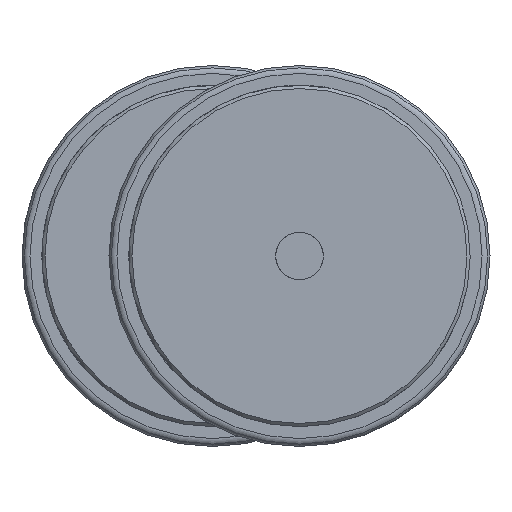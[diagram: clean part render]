
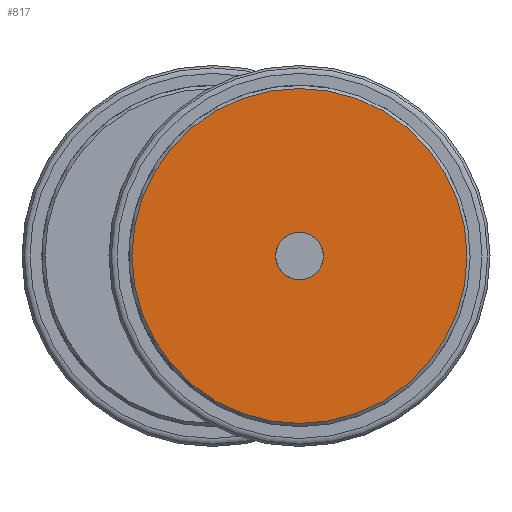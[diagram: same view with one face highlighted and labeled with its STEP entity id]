
A CAD part, left-side view. The second image highlights one B-rep face of the part: STEP entity #817.
In plain terms, the highlighted planar face has unit normal (-1, 0, 0).
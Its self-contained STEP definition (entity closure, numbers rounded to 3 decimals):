
#817 = ADVANCED_FACE( 'NONE', ( #1272, #1273 ), #1274, .F. );
#1272 = FACE_OUTER_BOUND( '', #1475, .T. );
#1273 = FACE_BOUND( '', #1476, .T. );
#1274 = PLANE( '', #1477 );
#1475 = EDGE_LOOP( '', ( #1833 ) );
#1476 = EDGE_LOOP( '', ( #1834 ) );
#1477 = AXIS2_PLACEMENT_3D( '', #1835, #1836, #1837 );
#1833 = ORIENTED_EDGE( '', *, *, #2362, .T. );
#1834 = ORIENTED_EDGE( '', *, *, #2354, .F. );
#1835 = CARTESIAN_POINT( '', ( 0., 1.5, 0. ) );
#1836 = DIRECTION( '', ( 1., 0., 0. ) );
#1837 = DIRECTION( '', ( 0., 1., 0. ) );
#2354 = EDGE_CURVE( 'NONE', #2620, #2620, #2621, .F. );
#2362 = EDGE_CURVE( 'NONE', #2633, #2633, #2634, .F. );
#2620 = VERTEX_POINT( '', #2855 );
#2621 = CIRCLE( '', #2856, 1.5 );
#2633 = VERTEX_POINT( '', #2921 );
#2634 = CIRCLE( '', #2922, 10.55 );
#2855 = CARTESIAN_POINT( '', ( 0., 0., -1.5 ) );
#2856 = AXIS2_PLACEMENT_3D( '', #3004, #3005, #3006 );
#2921 = CARTESIAN_POINT( '', ( 0., 0., -10.55 ) );
#2922 = AXIS2_PLACEMENT_3D( '', #3014, #3015, #3016 );
#3004 = CARTESIAN_POINT( '', ( 0., 0., 0. ) );
#3005 = DIRECTION( '', ( 1., 0., 0. ) );
#3006 = DIRECTION( '', ( 0., 0., -1. ) );
#3014 = CARTESIAN_POINT( '', ( 0., 0., 0. ) );
#3015 = DIRECTION( '', ( 1., 0., 0. ) );
#3016 = DIRECTION( '', ( 0., 0., -1. ) );
